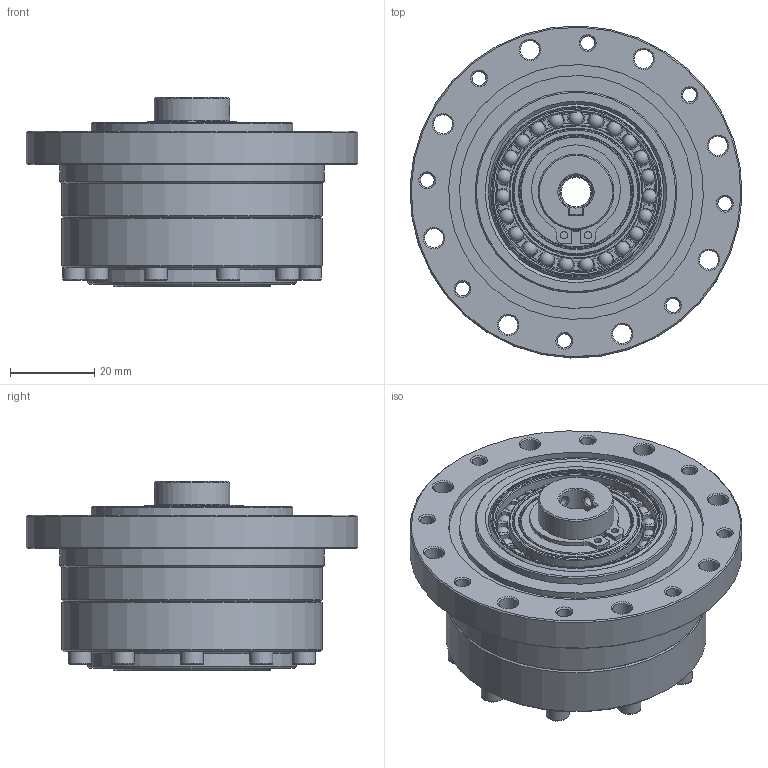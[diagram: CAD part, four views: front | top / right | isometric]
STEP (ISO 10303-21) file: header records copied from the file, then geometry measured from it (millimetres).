
FILE_DESCRIPTION(/* description */ (''),/* implementation_level */ '2;1');
FILE_NAME(/* name */ 'LSG-17-XX-U-II-φ8.stp',/* time_stamp */ '2023-06-29T10:04:31+08:00',/* author */ (''),/* organization */ (''),/* preprocessor_version */ 'ST-DEVELOPER v16.7',/* originating_system */ 'SIEMENS PLM Software NX 12.0',/* authorisation */ '');
FILE_SCHEMA (('AUTOMOTIVE_DESIGN { 1 0 10303 214 3 1 1 1 }'));
Length unit declared in the file: millimetre
Products named in the file (18): EB304006-17KE-01; EB304006-17KC-46; TC-38x47x4; O-45x1; GB-T70.1-2000,M3x16; GB-T70.1-2000,M5x16; 销子3x10; 轴用弹性挡圈φ18; 铜垫圈18.5x26.5x1; CS-17-XX-03; CS-17-00-02; CSG-17-00-01-K8; 柔轮垫块LSS-17; 柔轮LSS-17; 刚轮LSS-17; EB304006-17KE; 交叉轴承LSS-17; LSG-17-XX-U-II-φ8
Assembly tree (33 placements, depth 3):
  LSG-17-XX-U-II-φ8
    交叉轴承LSS-17
      TC-38x47x4
    刚轮LSS-17
    柔轮LSS-17
    柔轮垫块LSS-17
    EB304006-17KE
      EB304006-17KC-46
      EB304006-17KE-01
    CSG-17-00-01-K8
    CS-17-00-02
    CS-17-XX-03
    铜垫圈18.5x26.5x1
    轴用弹性挡圈φ18
    销子3x10  x3
    GB-T70.1-2000,M5x16  x6
    GB-T70.1-2000,M3x16  x10
    O-45x1
Bounding box: 78.95 x 78.95 x 45 mm (x, y, z)
Volume: 94262 mm3; surface area: 67654.5 mm2
Topology: 57 solids, 57 shells, 1145 faces, 2589 edges, 1551 vertices
Faces by surface type: plane 450, cone 319, cylinder 234, torus 114, sphere 23, bspline 4, revolution 1
Full cylindrical faces by diameter (mm): 1.7 x2, 2.5 x12, 2.874 x10, 3 x9, 3.3 x8, 3.5 x10, 4.2 x12, 4.5 x8, 4.826 x6, 5.5 x22, 7 x1, 8.5 x6, 10 x3, 17 x1, 18 x2, 18.5 x3, 26 x1, 26.5 x1, 27 x1, 28 x2, 29 x1, 30 x2, 31.88 x2, 33 x1, 33.8 x1, 34.5 x1, 36 x1, 37.3 x1, 37.9 x1, 38 x2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
Entity records: 22004 total; most frequent: CARTESIAN_POINT 5116, DIRECTION 3575, ORIENTED_EDGE 2708, AXIS2_PLACEMENT_3D 1592, EDGE_CURVE 1354, EDGE_LOOP 1258, VERTEX_POINT 1070, FACE_BOUND 971
